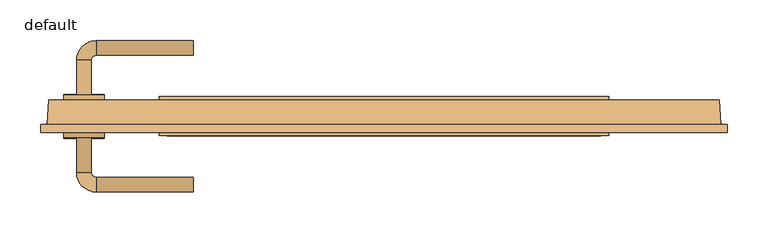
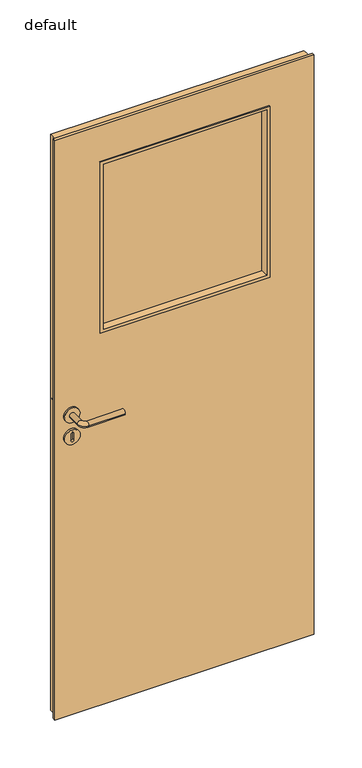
"""IFC4 building model written with IfcOpenShell, lengths in millimetres: door geometry, Panel_FIN_40D_Rebated_Glazed_05 : default."""

from ifc_helpers import new_model, si_unit, point, frame, frame_2d, origin, place, context, project, spatial, polyline, circle_curve, ellipse_curve, trimmed, segment, composite_curve, outline, extrude, faceted_brep, source, transform, mapped, element, save
from ifc_brep_helpers import plane_surface, cylinder_surface, revolved_surface, advanced_brep


def default_978da207(model_context):
    return source(origin(), model_context, "Body", "SolidModel", [
        extrude(outline(composite_curve([segment(trimmed(circle_curve(frame_2d((970.5, -368.5)), 25.0), [point((970.5, -343.5))], [point((970.5, -393.5))], False, "CARTESIAN"), True, "CONTINUOUS"), segment(trimmed(circle_curve(frame_2d((970.5, -368.5)), 25.0), [point((970.5, -393.5))], [point((970.5, -343.5))], False, "CARTESIAN"), True, "CONTINUOUS")], self_intersect=False), holes=[composite_curve([segment(polyline([(959.256589, -372.5), (981.743411, -372.5)]), True, "CONTINUOUS"), segment(trimmed(circle_curve(frame_2d((981.743411, -368.5)), 4.0), [point((981.743411, -372.5))], [point((981.743411, -364.5))], True, "CARTESIAN"), True, "CONTINUOUS"), segment(polyline([(981.743411, -364.5), (959.256589, -364.5)]), True, "CONTINUOUS"), segment(trimmed(circle_curve(frame_2d((959.256589, -368.5)), 4.0), [point((959.256589, -364.5))], [point((959.256589, -372.5))], True, "CARTESIAN"), True, "CONTINUOUS")], self_intersect=False)]), frame((0.0, 40.0, 0.0), z_axis=(0.0, 1.0, 0.0), x_axis=(0.0, 0.0, 1.0)), (0.0, 0.0, 1.0), 7.0),
        extrude(outline(composite_curve([segment(trimmed(circle_curve(frame_2d((970.5, -368.5)), 25.0), [point((970.5, -343.5))], [point((970.5, -393.5))], False, "CARTESIAN"), True, "CONTINUOUS"), segment(trimmed(circle_curve(frame_2d((970.5, -368.5)), 25.0), [point((970.5, -393.5))], [point((970.5, -343.5))], False, "CARTESIAN"), True, "CONTINUOUS")], self_intersect=False), holes=[composite_curve([segment(trimmed(circle_curve(frame_2d((981.743411, -368.5)), 4.0), [point((981.743411, -372.5))], [point((981.743411, -364.5))], True, "CARTESIAN"), True, "CONTINUOUS"), segment(polyline([(981.743411, -364.5), (959.256589, -364.5)]), True, "CONTINUOUS"), segment(trimmed(circle_curve(frame_2d((959.256589, -368.5)), 4.0), [point((959.256589, -364.5))], [point((959.256589, -372.5))], True, "CARTESIAN"), True, "CONTINUOUS"), segment(polyline([(959.256589, -372.5), (981.743411, -372.5)]), True, "CONTINUOUS")], self_intersect=False)]), frame((0.0, -7.0, 0.0), z_axis=(0.0, 1.0, 0.0), x_axis=(0.0, 0.0, 1.0)), (0.0, 0.0, 1.0), 7.0),
        advanced_brep(
        [(-393.5, 46.0, 1044.5), (-343.5, 46.0, 1044.5), (-359.5346073, 46.0, 1044.5), (-377.4653927, 46.0, 1044.5), (-393.5, 40.0, 1044.5), (-343.5, 40.0, 1044.5), (-359.5346073, 88.9627146, 1044.5), (-377.4653927, 88.9627146, 1044.5), (-353.5, 94.9973219, 1044.5), (-353.5, 112.9281073, 1044.5), (-234.5, 94.9973219, 1044.5), (-234.5, 112.9281073, 1044.5)],
        [
            (0, 1, circle_curve(frame((-368.5, 46.0, 1044.5), z_axis=(0.0, 1.0, 0.0), x_axis=(1.0, 0.0, 0.0)), 25.0)),
            (1, 0, circle_curve(frame((-368.5, 46.0, 1044.5), z_axis=(0.0, 1.0, 0.0), x_axis=(1.0, 0.0, 0.0)), 25.0)),
            (2, 3, circle_curve(frame((-368.5, 46.0, 1044.5), z_axis=(0.0, -1.0, 0.0), x_axis=(-1.0, 0.0, 0.0)), 8.9653927)),
            (3, 2, circle_curve(frame((-368.5, 46.0, 1044.5), z_axis=(0.0, -1.0, 0.0), x_axis=(-1.0, 0.0, 0.0)), 8.9653927)),
            (4, 5, circle_curve(frame((-368.5, 40.0, 1044.5), z_axis=(0.0, -1.0, 0.0), x_axis=(1.0, 0.0, 0.0)), 25.0)),
            (5, 4, circle_curve(frame((-368.5, 40.0, 1044.5), z_axis=(0.0, -1.0, 0.0), x_axis=(1.0, 0.0, 0.0)), 25.0)),
            (1, 5),
            (4, 0),
            (2, 6),
            (6, 7, circle_curve(frame((-368.5, 88.9627146, 1044.5), z_axis=(0.0, -1.0, 0.0), x_axis=(-1.0, 0.0, 0.0)), 8.9653927)),
            (7, 3),
            (7, 6, circle_curve(frame((-368.5, 88.9627146, 1044.5), z_axis=(0.0, -1.0, 0.0), x_axis=(-1.0, 0.0, 0.0)), 8.9653927)),
            (6, 8, circle_curve(frame((-353.5, 88.9627146, 1044.5), z_axis=(0.0, 0.0, -1.0), x_axis=(-1.0, 0.0, 0.0)), 6.0346073)),
            (8, 9, circle_curve(frame((-353.5, 103.9627146, 1044.5), z_axis=(-1.0, 0.0, 0.0), x_axis=(0.0, 1.0, 0.0)), 8.9653927)),
            (9, 7, circle_curve(frame((-353.5, 88.9627146, 1044.5), z_axis=(0.0, 0.0, 1.0), x_axis=(-1.0, 0.0, 0.0)), 23.9653927)),
            (9, 8, circle_curve(frame((-353.5, 103.9627146, 1044.5), z_axis=(-1.0, 0.0, 0.0), x_axis=(0.0, 1.0, 0.0)), 8.9653927)),
            (10, 11, circle_curve(frame((-234.5, 103.9627146, 1044.5), z_axis=(1.0, 0.0, 0.0), x_axis=(0.0, 1.0, 0.0)), 8.9653927)),
            (11, 10, circle_curve(frame((-234.5, 103.9627146, 1044.5), z_axis=(1.0, 0.0, 0.0), x_axis=(0.0, 1.0, 0.0)), 8.9653927)),
            (8, 10),
            (11, 9),
        ],
        [
            plane_surface(frame((-343.5, 46.0, 1044.5), z_axis=(0.0, 1.0, 0.0), x_axis=(0.0, 0.0, -1.0))),
            plane_surface(frame((-343.5, 40.0, 1044.5), z_axis=(0.0, -1.0, 0.0), x_axis=(0.0, 0.0, 1.0))),
            cylinder_surface(frame((-368.5, 46.0, 1044.5), z_axis=(0.0, -1.0, 0.0), x_axis=(1.0, 0.0, 0.0)), 25.0),
            cylinder_surface(frame((-368.5, 46.0, 1044.5), z_axis=(0.0, -1.0, 0.0), x_axis=(-1.0, 0.0, 0.0)), 8.9653927),
            revolved_surface(trimmed(ellipse_curve(frame((-368.5, 88.9627146, 1044.5), z_axis=(0.0, -1.0, 0.0), x_axis=(-1.0, 0.0, 0.0)), 8.9653927, 8.9653927), [point((-359.5346073, 88.9627146, 1044.5))], [point((-377.4653927, 88.9627146, 1044.5))], True, "CARTESIAN"), (-353.5, 88.9627146, 1044.5), (0.0, 0.0, -1.0)),
            revolved_surface(trimmed(ellipse_curve(frame((-368.5, 88.9627146, 1044.5), z_axis=(0.0, -1.0, 0.0), x_axis=(-1.0, 0.0, 0.0)), 8.9653927, 8.9653927), [point((-377.4653927, 88.9627146, 1044.5))], [point((-359.5346073, 88.9627146, 1044.5))], True, "CARTESIAN"), (-353.5, 88.9627146, 1044.5), (0.0, 0.0, -1.0)),
            plane_surface(frame((-234.5, 103.9627146, 1044.5), z_axis=(1.0, 0.0, 0.0), x_axis=(0.0, 0.0, 1.0))),
            cylinder_surface(frame((-353.5, 103.9627146, 1044.5), z_axis=(-1.0, 0.0, 0.0), x_axis=(0.0, 1.0, 0.0)), 8.9653927),
        ],
        [
            (0, [[1, 2], [3, 4]]),
            (1, [[5, 6]]),
            (2, [[-2, 7, -5, 8]]),
            (2, [[-1, -8, -6, -7]]),
            (3, [[9, 10, 11, -3]]),
            (3, [[-9, -4, -11, 12]]),
            (4, [[-10, 13, 14, 15]]),
            (5, [[-12, -15, 16, -13]]),
            (6, [[17, 18]]),
            (7, [[-14, 19, -18, 20]]),
            (7, [[-16, -20, -17, -19]]),
        ],
    ),
        advanced_brep(
        [(-393.5, -6.0, 1044.5), (-343.5, -6.0, 1044.5), (-359.5346073, -6.0, 1044.5), (-377.4653927, -6.0, 1044.5), (-393.5, 0.0, 1044.5), (-343.5, 0.0, 1044.5), (-377.4653927, -48.9627146, 1044.5), (-359.5346073, -48.9627146, 1044.5), (-353.5, -72.9281073, 1044.5), (-353.5, -54.9973219, 1044.5), (-234.5, -54.9973219, 1044.5), (-234.5, -72.9281073, 1044.5)],
        [
            (0, 1, circle_curve(frame((-368.5, -6.0, 1044.5), z_axis=(0.0, -1.0, 0.0), x_axis=(1.0, 0.0, 0.0)), 25.0)),
            (1, 0, circle_curve(frame((-368.5, -6.0, 1044.5), z_axis=(0.0, -1.0, 0.0), x_axis=(1.0, 0.0, 0.0)), 25.0)),
            (2, 3, circle_curve(frame((-368.5, -6.0, 1044.5), z_axis=(0.0, 1.0, 0.0), x_axis=(-1.0, 0.0, 0.0)), 8.9653927)),
            (3, 2, circle_curve(frame((-368.5, -6.0, 1044.5), z_axis=(0.0, 1.0, 0.0), x_axis=(-1.0, 0.0, 0.0)), 8.9653927)),
            (4, 5, circle_curve(frame((-368.5, 0.0, 1044.5), z_axis=(0.0, 1.0, 0.0), x_axis=(1.0, 0.0, 0.0)), 25.0)),
            (5, 4, circle_curve(frame((-368.5, 0.0, 1044.5), z_axis=(0.0, 1.0, 0.0), x_axis=(1.0, 0.0, 0.0)), 25.0)),
            (0, 4),
            (5, 1),
            (3, 6),
            (6, 7, circle_curve(frame((-368.5, -48.9627146, 1044.5), z_axis=(0.0, 1.0, 0.0), x_axis=(-1.0, 0.0, 0.0)), 8.9653927)),
            (7, 2),
            (7, 6, circle_curve(frame((-368.5, -48.9627146, 1044.5), z_axis=(0.0, 1.0, 0.0), x_axis=(-1.0, 0.0, 0.0)), 8.9653927)),
            (6, 8, circle_curve(frame((-353.5, -48.9627146, 1044.5), z_axis=(0.0, 0.0, 1.0), x_axis=(-1.0, 0.0, 0.0)), 23.9653927)),
            (8, 9, circle_curve(frame((-353.5, -63.9627146, 1044.5), z_axis=(-1.0, 0.0, 0.0), x_axis=(0.0, -1.0, 0.0)), 8.9653927)),
            (9, 7, circle_curve(frame((-353.5, -48.9627146, 1044.5), z_axis=(0.0, 0.0, -1.0), x_axis=(-1.0, 0.0, 0.0)), 6.0346073)),
            (9, 8, circle_curve(frame((-353.5, -63.9627146, 1044.5), z_axis=(-1.0, 0.0, 0.0), x_axis=(0.0, -1.0, 0.0)), 8.9653927)),
            (10, 11, circle_curve(frame((-234.5, -63.9627146, 1044.5), z_axis=(1.0, 0.0, 0.0), x_axis=(0.0, -1.0, 0.0)), 8.9653927)),
            (11, 10, circle_curve(frame((-234.5, -63.9627146, 1044.5), z_axis=(1.0, 0.0, 0.0), x_axis=(0.0, -1.0, 0.0)), 8.9653927)),
            (8, 11),
            (10, 9),
        ],
        [
            plane_surface(frame((-343.5, -6.0, 1044.5), z_axis=(0.0, -1.0, 0.0), x_axis=(0.0, 0.0, -1.0))),
            plane_surface(frame((-343.5, 0.0, 1044.5), z_axis=(0.0, 1.0, 0.0), x_axis=(0.0, 0.0, 1.0))),
            cylinder_surface(frame((-368.5, -6.0, 1044.5), z_axis=(0.0, 1.0, 0.0), x_axis=(1.0, 0.0, 0.0)), 25.0),
            cylinder_surface(frame((-368.5, -6.0, 1044.5), z_axis=(0.0, 1.0, 0.0), x_axis=(-1.0, 0.0, 0.0)), 8.9653927),
            revolved_surface(trimmed(ellipse_curve(frame((-368.5, -48.9627146, 1044.5), z_axis=(0.0, -1.0, 0.0), x_axis=(-1.0, 0.0, 0.0)), 8.9653927, 8.9653927), [point((-359.5346073, -48.9627146, 1044.5))], [point((-377.4653927, -48.9627146, 1044.5))], True, "CARTESIAN"), (-353.5, -48.9627146, 1044.5), (0.0, 0.0, -1.0)),
            revolved_surface(trimmed(ellipse_curve(frame((-368.5, -48.9627146, 1044.5), z_axis=(0.0, -1.0, 0.0), x_axis=(-1.0, 0.0, 0.0)), 8.9653927, 8.9653927), [point((-377.4653927, -48.9627146, 1044.5))], [point((-359.5346073, -48.9627146, 1044.5))], True, "CARTESIAN"), (-353.5, -48.9627146, 1044.5), (0.0, 0.0, -1.0)),
            plane_surface(frame((-234.5, -63.9627146, 1044.5), z_axis=(1.0, 0.0, 0.0), x_axis=(0.0, 0.0, 1.0))),
            cylinder_surface(frame((-353.5, -63.9627146, 1044.5), z_axis=(-1.0, 0.0, 0.0), x_axis=(0.0, -1.0, 0.0)), 8.9653927),
        ],
        [
            (0, [[1, 2], [3, 4]]),
            (1, [[5, 6]]),
            (2, [[7, -6, 8, -1]]),
            (2, [[-8, -5, -7, -2]]),
            (3, [[-4, 9, 10, 11]]),
            (3, [[12, -9, -3, -11]]),
            (4, [[13, 14, 15, -10]]),
            (5, [[-15, 16, -13, -12]]),
            (6, [[17, 18]]),
            (7, [[19, -17, 20, -14]]),
            (7, [[-20, -18, -19, -16]]),
        ],
    ),
        faceted_brep([(411.4021956, 40.0, 18.0), (-411.4021956, 40.0, 18.0), (-411.4021956, 40.0, 1997.0), (411.4021956, 40.0, 1997.0), (-271.5, 40.0, 1297.0), (271.5, 40.0, 1297.0), (271.5, 40.0, 1876.0), (-271.5, 40.0, 1876.0), (413.5, 10.0, 1997.0), (413.5, 10.0, 18.0), (-413.5, 10.0, 18.0), (-413.5, 10.0, 1997.0), (-421.5, 0.0, 2003.0), (-421.5, 0.0, 12.0), (421.5, 0.0, 12.0), (421.5, 0.0, 2003.0), (-271.5, 0.0, 1876.0), (271.5, 0.0, 1876.0), (271.5, 0.0, 1297.0), (-271.5, 0.0, 1297.0), (421.5, 10.0, 12.0), (421.5, 10.0, 2003.0), (-421.5, 10.0, 12.0), (-421.5, 10.0, 2003.0)], [[[0, 1, 2, 3], [4, 5, 6, 7]], [[3, 8, 9, 0]], [[1, 10, 11, 2]], [[10, 1, 0, 9]], [[12, 13, 14, 15], [16, 17, 18, 19]], [[14, 20, 21, 15]], [[13, 22, 20, 14]], [[12, 23, 22, 13]], [[22, 23, 21, 20], [10, 9, 8, 11]], [[15, 21, 23, 12]], [[8, 3, 2, 11]], [[16, 19, 4, 7]], [[19, 18, 5, 4]], [[18, 17, 6, 5]], [[7, 6, 17, 16]]]),
        faceted_brep([(-266.0, -4.0, 1870.5), (-266.0, -4.0, 1302.5), (-261.5, 17.0, 1307.0), (-261.5, 17.0, 1866.0), (-271.5, 16.2, 1297.0), (-271.5, 16.2, 1876.0), (-271.5, 0.0, 1297.0), (-271.5, 0.0, 1876.0), (-276.0, 0.0, 1880.5), (-276.0, 0.0, 1292.5), (-276.0, -4.0, 1292.5), (-276.0, -4.0, 1880.5), (266.0, -4.0, 1302.5), (261.5, 17.0, 1307.0), (271.5, 16.2, 1297.0), (271.5, 0.0, 1297.0), (276.0, 0.0, 1292.5), (276.0, -4.0, 1292.5), (266.0, -4.0, 1870.5), (261.5, 17.0, 1866.0), (271.5, 16.2, 1876.0), (271.5, 0.0, 1876.0), (276.0, 0.0, 1880.5), (276.0, -4.0, 1880.5)], [[[0, 1, 2, 3]], [[3, 2, 4, 5]], [[5, 4, 6, 7]], [[8, 9, 10, 11]], [[1, 12, 13, 2]], [[2, 13, 14, 4]], [[4, 14, 15, 6]], [[9, 16, 17, 10]], [[12, 18, 19, 13]], [[13, 19, 20, 14]], [[14, 20, 21, 15]], [[16, 22, 23, 17]], [[18, 0, 3, 19]], [[19, 3, 5, 20]], [[20, 5, 7, 21]], [[9, 8, 22, 16], [7, 6, 15, 21]], [[22, 8, 11, 23]], [[11, 10, 17, 23], [1, 0, 18, 12]]]),
        faceted_brep([(266.0, 44.0, 1870.5), (266.0, 44.0, 1302.5), (261.5, 23.0, 1307.0), (261.5, 23.0, 1866.0), (271.5, 23.8, 1297.0), (271.5, 23.8, 1876.0), (271.5, 40.0, 1297.0), (271.5, 40.0, 1876.0), (276.0, 40.0, 1880.5), (276.0, 40.0, 1292.5), (276.0, 44.0, 1292.5), (276.0, 44.0, 1880.5), (-266.0, 44.0, 1302.5), (-261.5, 23.0, 1307.0), (-271.5, 23.8, 1297.0), (-271.5, 40.0, 1297.0), (-276.0, 40.0, 1292.5), (-276.0, 44.0, 1292.5), (-266.0, 44.0, 1870.5), (-261.5, 23.0, 1866.0), (-271.5, 23.8, 1876.0), (-271.5, 40.0, 1876.0), (-276.0, 40.0, 1880.5), (-276.0, 44.0, 1880.5)], [[[0, 1, 2, 3]], [[3, 2, 4, 5]], [[5, 4, 6, 7]], [[8, 9, 10, 11]], [[1, 12, 13, 2]], [[2, 13, 14, 4]], [[4, 14, 15, 6]], [[9, 16, 17, 10]], [[12, 18, 19, 13]], [[13, 19, 20, 14]], [[14, 20, 21, 15]], [[16, 22, 23, 17]], [[18, 0, 3, 19]], [[19, 3, 5, 20]], [[20, 5, 7, 21]], [[9, 8, 22, 16], [7, 6, 15, 21]], [[22, 8, 11, 23]], [[11, 10, 17, 23], [1, 0, 18, 12]]]),
        extrude(outline(polyline([(-271.5, 17.0), (-271.5, 23.0), (271.5, 23.0), (271.5, 17.0), (-271.5, 17.0)])), frame((0.0, 0.0, 1297.0), z_axis=(0.0, 0.0, 1.0), x_axis=(1.0, 0.0, 0.0)), (0.0, 0.0, 1.0), 579.0),
    ])


if __name__ == "__main__":
    model = new_model("IFC4")
    model_context = context("Model", 3, world=origin())
    ifc_project = project(units=[si_unit("LENGTHUNIT", "METRE", prefix="MILLI")], contexts=[model_context])
    site = spatial("IfcSite", under=ifc_project)
    building = spatial("IfcBuilding", under=site)
    placement = place(None, origin())
    default_shape = default_978da207(model_context)
    element("IfcDoor", 1, ObjectType="Panel_FIN_40D_Rebated_Glazed_05 : default", at=placement, inside=building, context=model_context, shape_type="MappedRepresentation", body=[
        mapped(default_shape, transform((0.0, 0.0, 0.0), x_axis=(1.0, 0.0, 0.0), y_axis=(0.0, 1.0, 0.0), z_axis=(0.0, 0.0, 1.0))),
    ])
    save(model, "model.ifc")
